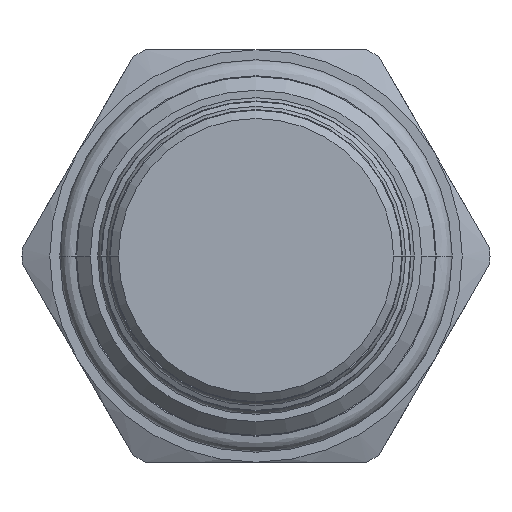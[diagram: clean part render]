
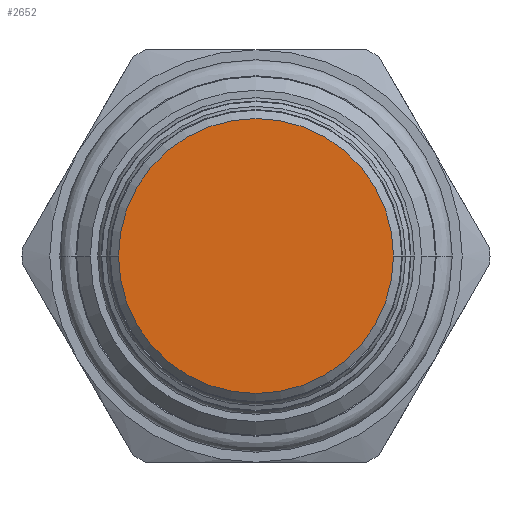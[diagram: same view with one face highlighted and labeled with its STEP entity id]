
A CAD part, front view. The second image highlights one B-rep face of the part: STEP entity #2652.
In plain terms, the highlighted planar face has unit normal (0, -1, 0).
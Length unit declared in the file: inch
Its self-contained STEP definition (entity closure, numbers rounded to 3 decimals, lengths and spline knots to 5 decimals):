
#1059=CARTESIAN_POINT('',(0.,-2.87,0.));
#1060=DIRECTION('',(0.,1.,0.));
#1061=DIRECTION('',(1.,0.,0.));
#1062=AXIS2_PLACEMENT_3D('',#1059,#1060,#1061);
#1069=CARTESIAN_POINT('',(0.,-2.87,0.));
#1070=DIRECTION('',(0.,1.,0.));
#1071=DIRECTION('',(-1.,0.,0.));
#1072=AXIS2_PLACEMENT_3D('',#1069,#1070,#1071);
#1187=CARTESIAN_POINT('',(0.5,-2.87,0.));
#1188=CARTESIAN_POINT('',(-0.5,-2.87,0.));
#1189=VERTEX_POINT('',#1187);
#1190=VERTEX_POINT('',#1188);
#2642=CARTESIAN_POINT('',(0.,-2.87,0.));
#2643=DIRECTION('',(0.,1.,0.));
#2644=DIRECTION('',(1.,0.,0.));
#2645=AXIS2_PLACEMENT_3D('',#2642,#2643,#2644);
#2646=PLANE('',#2645);
#2647=ORIENTED_EDGE('',*,*,#2632,.T.);
#2649=ORIENTED_EDGE('',*,*,#2648,.T.);
#2650=EDGE_LOOP('',(#2647,#2649));
#2651=FACE_OUTER_BOUND('',#2650,.F.);
#2652=ADVANCED_FACE('',(#2651),#2646,.F.);
#1063=CIRCLE('',#1062,0.5);
#1073=CIRCLE('',#1072,0.5);
#2632=EDGE_CURVE('',#1189,#1190,#1063,.T.);
#2648=EDGE_CURVE('',#1190,#1189,#1073,.T.);
